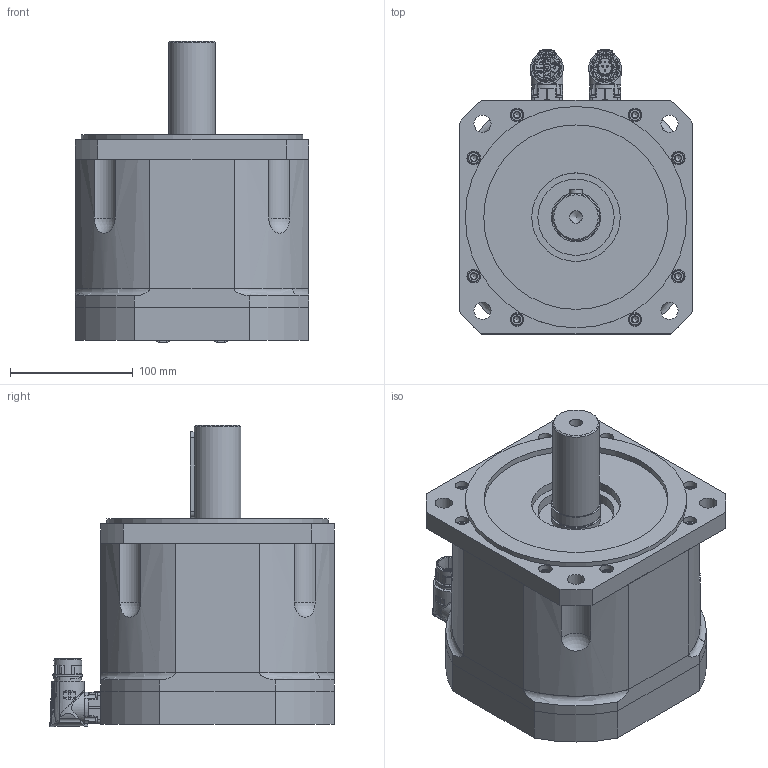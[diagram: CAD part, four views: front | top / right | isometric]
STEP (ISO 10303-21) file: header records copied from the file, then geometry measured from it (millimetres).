
FILE_DESCRIPTION(/* description */ (''),/* implementation_level */ '2;1');
FILE_NAME(/* name */ 'C:\Users\Public\Documents\Autodesk\Inventor LT 2014\Workspace\Motori Sito WEB\TG_6\STEP_DSM5_6x\DSM5_61_x097.stp',/* time_stamp */ '2021-03-31T14:19:12+02:00',/* author */ ('marcor'),/* organization */ (''),/* preprocessor_version */ 'ST-DEVELOPER v15.2',/* originating_system */ 'Autodesk Inventor LT ',/* authorisation */ '');
FILE_SCHEMA (('AUTOMOTIVE_DESIGN { 1 0 10303 214 3 1 1 }'));
Products named in the file (1): DSM5_61_x097
Bounding box: 190 x 231.5 x 244.91 mm (x, y, z)
Volume: 5263511.8 mm3; surface area: 428602.5 mm2
Topology: 24 solids, 34 shells, 1760 faces, 4569 edges, 3028 vertices
Faces by surface type: plane 650, cylinder 475, cone 391, bspline 113, torus 99, sphere 32
Full cylindrical faces by diameter (mm): 1.2 x12, 2.224 x8, 2.233 x6, 2.5 x8, 2.88 x8, 3.26 x8, 4.5 x2, 4.8 x8, 4.917 x20, 5.5 x3, 5.9 x2, 6 x20, 6.5 x20, 10 x20, 10.106 x1, 11 x20, 14 x4, 15.2 x1, 17.4 x3, 18 x1, 19.8 x1, 21.15 x4, 21.6 x1, 21.653 x2, 24.3 x2, 37.5 x1, 38 x1, 39.9 x1, 40 x1, 62 x1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
Entity records: 60310 total; most frequent: CARTESIAN_POINT 19386, ORIENTED_EDGE 8030, DIRECTION 7679, EDGE_CURVE 4015, AXIS2_PLACEMENT_3D 3104, VERTEX_POINT 2885, EDGE_LOOP 2388, ADVANCED_FACE 1760
